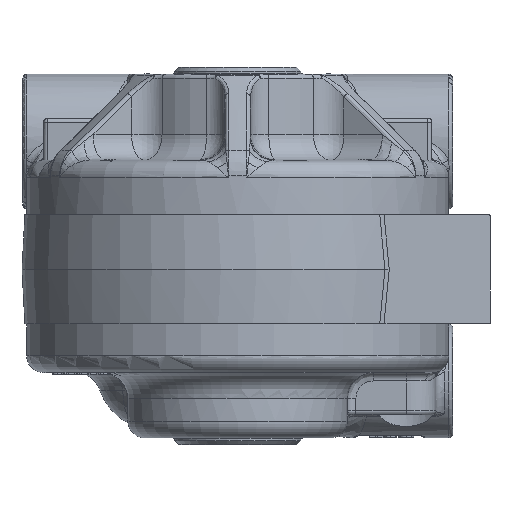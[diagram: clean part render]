
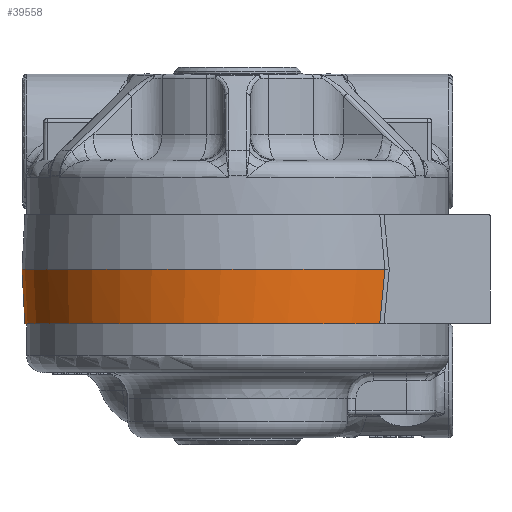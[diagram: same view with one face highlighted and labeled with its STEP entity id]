
A CAD part, front view. The second image highlights one B-rep face of the part: STEP entity #39558.
In plain terms, the highlighted conical face has half-angle 3 degrees and reference radius 81.28 mm.
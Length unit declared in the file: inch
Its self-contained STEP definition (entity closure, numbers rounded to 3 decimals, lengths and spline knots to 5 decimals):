
#38331=CARTESIAN_POINT('',(2.10824,-2.35063,-0.81));
#38332=VERTEX_POINT('',#38331);
#38343=CARTESIAN_POINT('',(-3.11339,0.52626,-0.81));
#38344=VERTEX_POINT('',#38343);
#38345=CARTESIAN_POINT('',(0.0,0.0,-0.81));
#38346=DIRECTION('',(0.0,0.0,-1.0));
#38347=DIRECTION('',(-0.986,0.167,0.0));
#38348=AXIS2_PLACEMENT_3D('',#38345,#38346,#38347);
#38349=CIRCLE('',#38348,3.15755);
#38350=EDGE_CURVE('',#38332,#38344,#38349,.T.);
#39515=CARTESIAN_POINT('',(-3.15524,0.53333,0.0));
#39516=VERTEX_POINT('',#39515);
#39517=CARTESIAN_POINT('',(-3.11339,0.52626,-0.81));
#39518=DIRECTION('',(-0.052,0.009,0.999));
#39519=VECTOR('',#39518,0.81111);
#39520=LINE('',#39517,#39519);
#39521=EDGE_CURVE('',#38344,#39516,#39520,.T.);
#39533=CARTESIAN_POINT('',(0.0,0.0,0.0));
#39534=DIRECTION('',(0.0,0.0,1.0));
#39535=DIRECTION('',(-0.986,0.167,0.0));
#39536=AXIS2_PLACEMENT_3D('',#39533,#39534,#39535);
#39537=CONICAL_SURFACE('',#39536,3.2,3.0);
#39538=ORIENTED_EDGE('',*,*,#38350,.F.);
#39539=CARTESIAN_POINT('',(2.18425,-2.3386,0.));
#39540=VERTEX_POINT('',#39539);
#39541=CARTESIAN_POINT('',(2.18425,-2.3386,0.));
#39542=CARTESIAN_POINT('',(2.15929,-2.34255,-0.27004));
#39543=CARTESIAN_POINT('',(2.13397,-2.34656,-0.54004));
#39544=CARTESIAN_POINT('',(2.10824,-2.35063,-0.81));
#39545=B_SPLINE_CURVE_WITH_KNOTS('',3,(#39541,#39542,#39543,#39544),.UNSPECIFIED.,.F.,.U.,(4,4),(2.64695,4.71413),.UNSPECIFIED.);
#39546=EDGE_CURVE('',#39540,#38332,#39545,.T.);
#39547=ORIENTED_EDGE('',*,*,#39546,.F.);
#39548=CARTESIAN_POINT('',(0.0,0.0,0.0));
#39549=DIRECTION('',(0.0,0.0,1.0));
#39550=DIRECTION('',(-0.986,0.167,0.0));
#39551=AXIS2_PLACEMENT_3D('',#39548,#39549,#39550);
#39552=CIRCLE('',#39551,3.2);
#39553=EDGE_CURVE('',#39516,#39540,#39552,.T.);
#39554=ORIENTED_EDGE('',*,*,#39553,.F.);
#39555=ORIENTED_EDGE('',*,*,#39521,.F.);
#39556=EDGE_LOOP('',(#39538,#39547,#39554,#39555));
#39557=FACE_OUTER_BOUND('',#39556,.T.);
#39558=ADVANCED_FACE('',(#39557),#39537,.T.);
